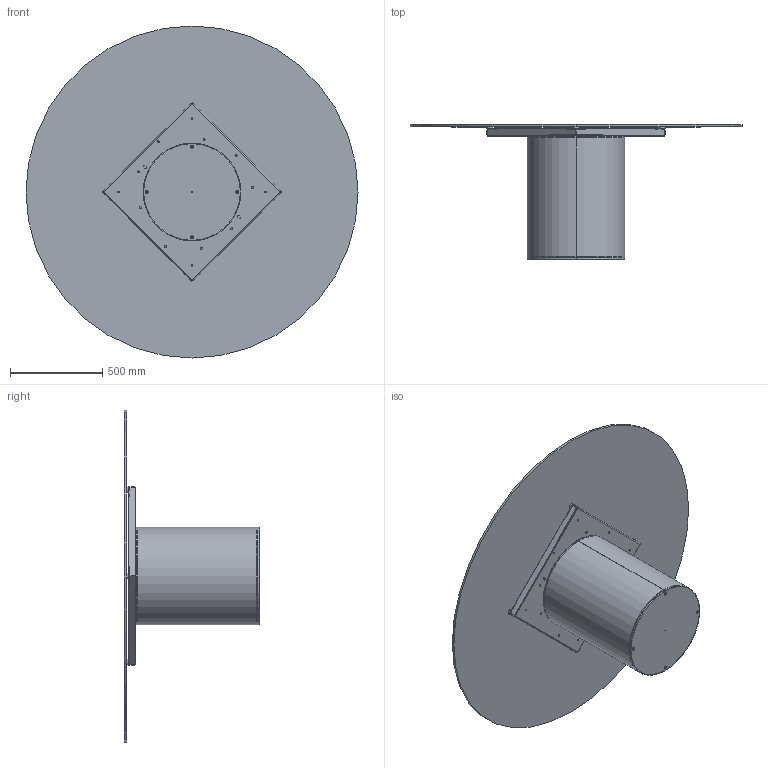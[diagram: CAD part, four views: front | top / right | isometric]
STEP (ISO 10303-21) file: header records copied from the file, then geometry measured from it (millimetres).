
FILE_DESCRIPTION (( 'STEP AP203' ), '1' );
FILE_NAME ('CI13G.STEP', '2024-08-08T07:03:45', ( '' ), ( '' ), 'SwSTEP 2.0', 'SolidWorks 2022', '' );
FILE_SCHEMA (( 'CONFIG_CONTROL_DESIGN' ));
Length unit declared in the file: millimetre
Products named in the file (11): C2B000000_02-01-ZAVORRA IN FERRO D.530mm; C1XCRMXX-00-piani Rotondi Cristallo_C13 D.180cm; TTAV0801-02-TELAIO UNIVERSALE TONDO-VASSOIO; C2B000000-03-CILINDRO BASE D.530mm_Normale; COLLO TELAIO UNIVERSALE TTAV0801 CON FERRAMENTA_MTG TOP CRISTALLO VERNICIATO-CERAMICA; C2B000000_01-00-struttura cilindro D.530mm; TTAV0801 TELAIO UNIVERSALE TONDO-PIASTRINA; M8xXXmm_hex_M8X20mm; TTAV0801-02-TELAIO UNIVERSALE TONDO; 434070-00-PIEDINO TPV GOMMA NERO D. 30x8max18_filo estetico; CI13G
Assembly tree (19 placements, depth 4):
  CI13G
    C2B000000-03-CILINDRO BASE D.530mm_Normale
      C2B000000_01-00-struttura cilindro D.530mm
      C2B000000_02-01-ZAVORRA IN FERRO D.530mm
      M8xXXmm_hex_M8X20mm  x4
    COLLO TELAIO UNIVERSALE TTAV0801 CON FERRAMENTA_MTG TOP CRISTALLO VERNICIATO-CERAMICA
      TTAV0801-02-TELAIO UNIVERSALE TONDO
        TTAV0801-02-TELAIO UNIVERSALE TONDO-VASSOIO
        TTAV0801 TELAIO UNIVERSALE TONDO-PIASTRINA  x4
      434070-00-PIEDINO TPV GOMMA NERO D. 30x8max18_filo estetico  x4
    C1XCRMXX-00-piani Rotondi Cristallo_C13 D.180cm
Bounding box: 1800 x 732 x 1800 mm (x, y, z)
Volume: 37857610.6 mm3; surface area: 9301409.8 mm2
Topology: 23 solids, 23 shells, 704 faces, 1776 edges, 1110 vertices
Faces by surface type: plane 332, cylinder 302, cone 32, torus 24, sphere 14
Entity records: 15444 total; most frequent: DIRECTION 2573, CARTESIAN_POINT 2386, ORIENTED_EDGE 2338, EDGE_CURVE 1169, AXIS2_PLACEMENT_3D 930, VERTEX_POINT 743, VECTOR 713, LINE 713
